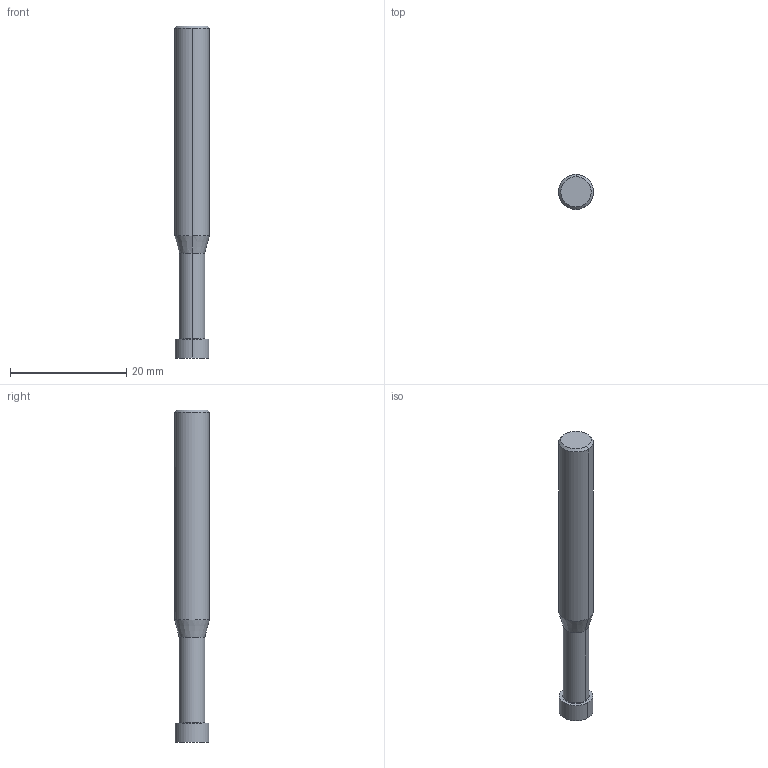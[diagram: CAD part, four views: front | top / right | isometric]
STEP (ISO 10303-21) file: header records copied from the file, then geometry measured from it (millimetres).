
FILE_DESCRIPTION(('no description'),'unknown implementation level');
FILE_NAME('solidFmx1r1nXfGx7MFX6AMxxQ1ZBX20_1.STP',' ',('CIMSOURCE GmbH'),('CADClick - KiM GmbH - www.kimweb.de'),'unknown preprocess','ACIS','unknown authorization');
FILE_SCHEMA(('automotive_design'));
Length unit declared in the file: millimetre
Products named in the file (2): NOCUT; CUT
Bounding box: 6 x 6 x 57 mm (x, y, z)
Volume: 1389 mm3; surface area: 1086.2 mm2
Topology: 2 solids, 2 shells, 30 faces, 69 edges, 44 vertices
Faces by surface type: cylinder 14, plane 10, cone 6
Entity records: 1910 total; most frequent: CARTESIAN_POINT 366, DIRECTION 153, STYLED_ITEM 145, PRESENTATION_STYLE_ASSIGNMENT 145, COLOUR_RGB 145, ORIENTED_EDGE 138, EDGE_CURVE 69, CURVE_STYLE 69
